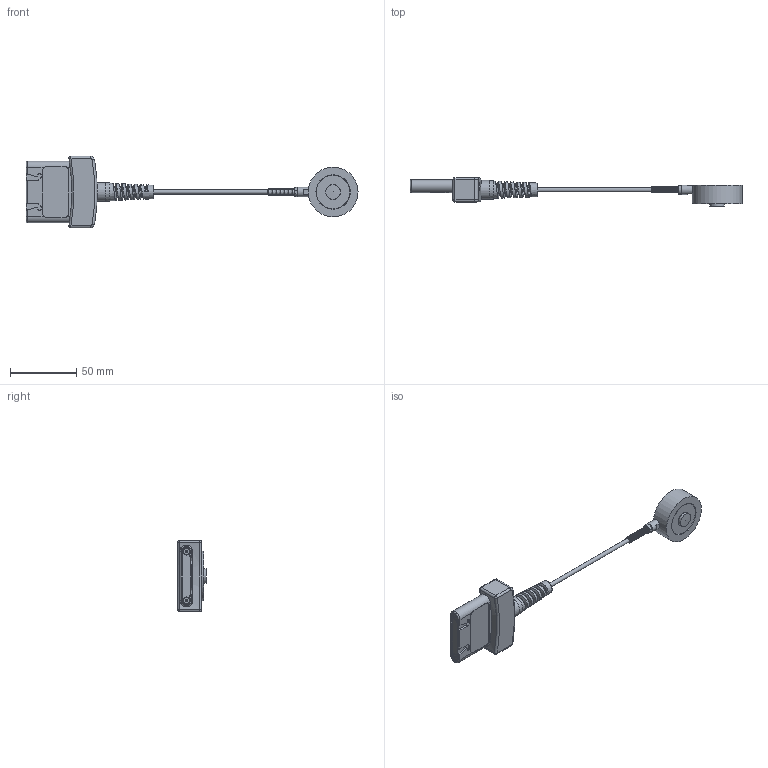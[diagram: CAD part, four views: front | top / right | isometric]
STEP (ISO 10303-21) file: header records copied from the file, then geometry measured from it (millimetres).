
FILE_DESCRIPTION((''),'2;1');
FILE_NAME('F:\CAD files\Itr\3D MARKETING MODELS\FORCE SENSORS\MR02\MR02-5000-10000.stp','2017-06-01T10:51:12',('mlampen'),(''),'Autodesk Inventor 2010','Autodesk Inventor 2010','');
FILE_SCHEMA(('AUTOMOTIVE_DESIGN { 1 0 10303 214 1 1 1 1 }'));
Length unit declared in the file: inch
Products named in the file (1): Part2
Bounding box: 250.8 x 21.59 x 54.02 mm (x, y, z)
Volume: 51092 mm3; surface area: 19736 mm2
Topology: 5 solids, 5 shells, 409 faces, 1048 edges, 671 vertices
Faces by surface type: bspline 143, plane 124, cylinder 75, cone 49, torus 13, sphere 5
Full cylindrical faces by diameter (mm): 2.779 x3, 3.048 x1, 3.175 x2, 3.302 x1, 4.648 x2, 4.801 x1, 5.334 x1, 5.791 x1, 5.842 x2, 7.061 x1, 7.62 x6, 10.922 x1, 14.224 x1, 14.732 x1, 25.908 x1, 26.721 x1, 27.432 x1, 37.592 x1
Entity records: 23221 total; most frequent: CARTESIAN_POINT 15097, ORIENTED_EDGE 1798, DIRECTION 1340, EDGE_CURVE 899, VERTEX_POINT 647, AXIS2_PLACEMENT_3D 555, EDGE_LOOP 544, FACE_OUTER_BOUND 399
